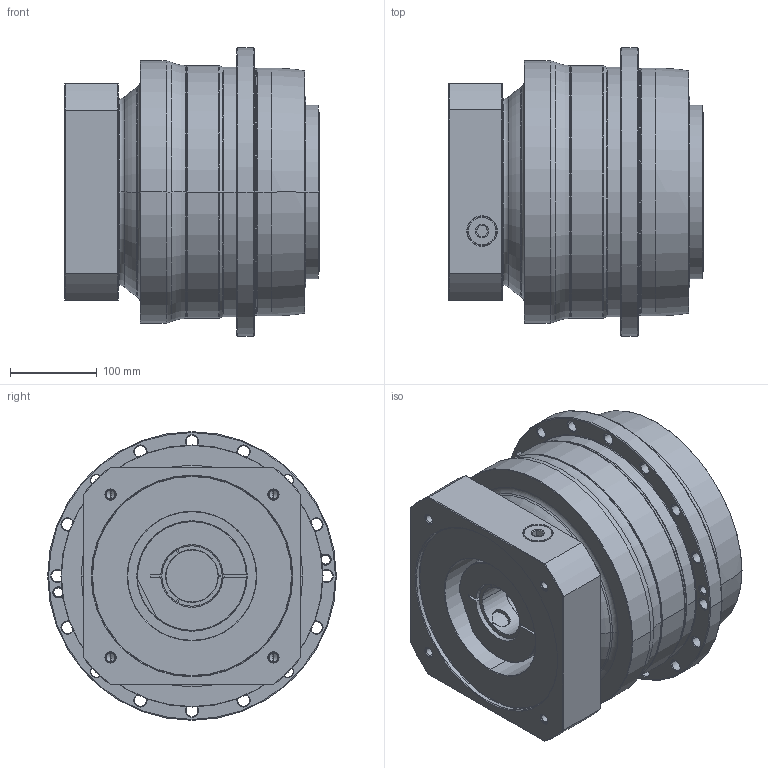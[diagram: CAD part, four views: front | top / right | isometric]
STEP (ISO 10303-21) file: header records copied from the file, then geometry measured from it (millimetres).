
FILE_DESCRIPTION((''),'2;1');
FILE_NAME('AH285_1ST_60-P0409D00101_ASM','2016-10-13T',('d00435'),(''),'PRO/ENGINEER BY PARAMETRIC TECHNOLOGY CORPORATION, 2008410','PRO/ENGINEER BY PARAMETRIC TECHNOLOGY CORPORATION, 2008410','');
FILE_SCHEMA(('CONFIG_CONTROL_DESIGN'));
Length unit declared in the file: millimetre
Products named in the file (8): P0278800003; P0359800003; P1318800501; P0409D00101; P0503D00016; P0912805201; 21711426021; AH285_1ST_60-P0409D00101_ASM
Assembly tree (7 placements, depth 2):
  AH285_1ST_60-P0409D00101_ASM
    P0278800003
    P0359800003
    P1318800501
    P0409D00101
    P0503D00016
    P0912805201
    21711426021
Bounding box: 293 x 332 x 332 mm (x, y, z)
Volume: 16731984.7 mm3; surface area: 1095653.2 mm2
Topology: 8 solids, 34 shells, 658 faces, 1527 edges, 923 vertices
Faces by surface type: cylinder 268, cone 192, plane 116, torus 68, bspline 14
Entity records: 23267 total; most frequent: CARTESIAN_POINT 7823, DIRECTION 3545, ORIENTED_EDGE 2858, AXIS2_PLACEMENT_3D 1507, EDGE_CURVE 1481, VERTEX_POINT 923, CIRCLE 836, EDGE_LOOP 792
